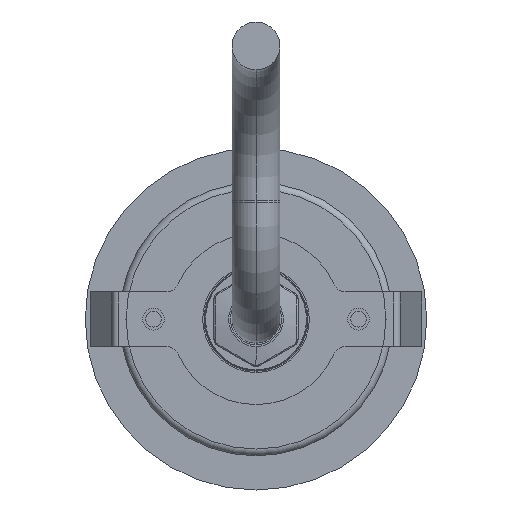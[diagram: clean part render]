
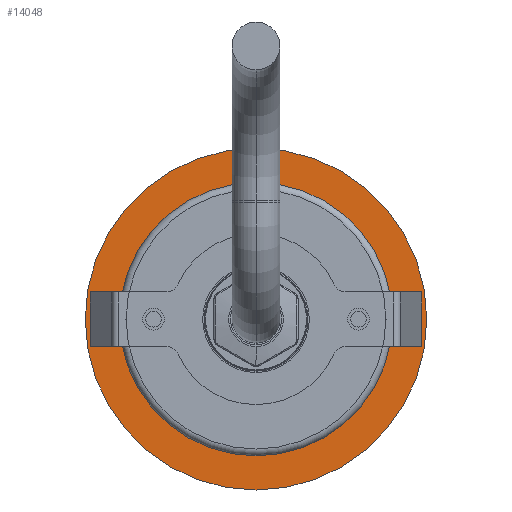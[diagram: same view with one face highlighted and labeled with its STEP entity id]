
A CAD part, front view. The second image highlights one B-rep face of the part: STEP entity #14048.
In plain terms, the highlighted planar face has unit normal (0, -1, 0).
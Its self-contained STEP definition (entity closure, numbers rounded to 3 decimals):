
#13805=CARTESIAN_POINT('',(0.,0.,0.));
#13806=DIRECTION('',(0.,1.,0.));
#13807=DIRECTION('',(1.,0.,0.));
#13808=AXIS2_PLACEMENT_3D('',#13805,#13806,#13807);
#13810=CARTESIAN_POINT('',(0.,0.,0.));
#13811=DIRECTION('',(0.,1.,0.));
#13812=DIRECTION('',(-1.,0.,0.));
#13813=AXIS2_PLACEMENT_3D('',#13810,#13811,#13812);
#13815=CARTESIAN_POINT('',(0.,0.,0.));
#13816=DIRECTION('',(0.,-1.,0.));
#13817=DIRECTION('',(1.,0.,0.));
#13818=AXIS2_PLACEMENT_3D('',#13815,#13816,#13817);
#13820=CARTESIAN_POINT('',(0.,0.,0.));
#13821=DIRECTION('',(0.,-1.,0.));
#13822=DIRECTION('',(-1.,0.,0.));
#13823=AXIS2_PLACEMENT_3D('',#13820,#13821,#13822);
#13859=CARTESIAN_POINT('',(20.,0.,0.));
#13860=CARTESIAN_POINT('',(-20.,0.,0.));
#13861=VERTEX_POINT('',#13859);
#13862=VERTEX_POINT('',#13860);
#13871=CARTESIAN_POINT('',(25.,0.,0.));
#13872=CARTESIAN_POINT('',(-25.,0.,0.));
#13873=VERTEX_POINT('',#13871);
#13874=VERTEX_POINT('',#13872);
#14032=CARTESIAN_POINT('',(0.,0.,0.));
#14033=DIRECTION('',(0.,1.,0.));
#14034=DIRECTION('',(1.,0.,0.));
#14035=AXIS2_PLACEMENT_3D('',#14032,#14033,#14034);
#14036=PLANE('',#14035);
#14038=ORIENTED_EDGE('',*,*,#14037,.T.);
#14040=ORIENTED_EDGE('',*,*,#14039,.T.);
#14041=EDGE_LOOP('',(#14038,#14040));
#14042=FACE_OUTER_BOUND('',#14041,.F.);
#14043=ORIENTED_EDGE('',*,*,#14022,.T.);
#14045=ORIENTED_EDGE('',*,*,#14044,.T.);
#14046=EDGE_LOOP('',(#14043,#14045));
#14047=FACE_BOUND('',#14046,.F.);
#14048=ADVANCED_FACE('',(#14042,#14047),#14036,.F.);
#13809=CIRCLE('',#13808,25.);
#13814=CIRCLE('',#13813,25.);
#13819=CIRCLE('',#13818,20.);
#13824=CIRCLE('',#13823,20.);
#14022=EDGE_CURVE('',#13861,#13862,#13819,.T.);
#14037=EDGE_CURVE('',#13873,#13874,#13809,.T.);
#14039=EDGE_CURVE('',#13874,#13873,#13814,.T.);
#14044=EDGE_CURVE('',#13862,#13861,#13824,.T.);
